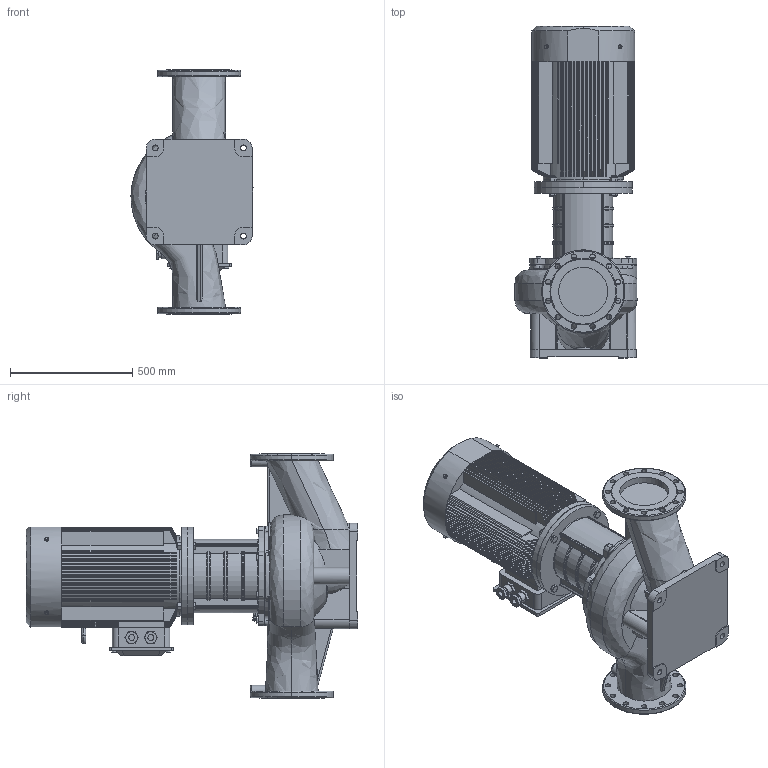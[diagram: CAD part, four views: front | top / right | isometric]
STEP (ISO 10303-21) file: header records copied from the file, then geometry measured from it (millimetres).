
FILE_DESCRIPTION(/* description */ (''),/* implementation_level */ '2;1');
FILE_NAME(/* name */ 'TD200-20-4安装尺寸图.stp',/* time_stamp */ '2026-09-07T16:53:15+08:00',/* author */ (''),/* organization */ (''),/* preprocessor_version */ 'ST-DEVELOPER v16.7',/* originating_system */ 'SIEMENS PLM Software NX 1847',/* authorisation */ '');
FILE_SCHEMA (('AP203_CONFIGURATION_CONTROLLED_3D_DESIGN_OF_MECHANICAL_PARTS_AND_ASSEMBLIES_MIM_LF { 1 0 10303 403 2 1 2}'));
Products named in the file (1): Admi55F8EAC4z577
Bounding box: 498.57 x 1355 x 1000 mm (x, y, z)
Volume: 174654277.3 mm3; surface area: 6941325.8 mm2
Topology: 1 solids, 8 shells, 1616 faces, 4182 edges, 2610 vertices
Faces by surface type: plane 698, cylinder 437, cone 305, torus 99, sphere 44, bspline 33
Full cylindrical faces by diameter (mm): 8 x2, 10 x1, 11.701 x8, 12 x8, 12.9 x1, 16 x2, 16.63 x8, 17.623 x8, 25.34 x4, 315 x1, 330 x1, 399 x1
Entity records: 55656 total; most frequent: CARTESIAN_POINT 17236, ORIENTED_EDGE 8042, DIRECTION 7933, EDGE_CURVE 4021, AXIS2_PLACEMENT_3D 3108, VERTEX_POINT 2563, EDGE_LOOP 1846, LINE 1717
